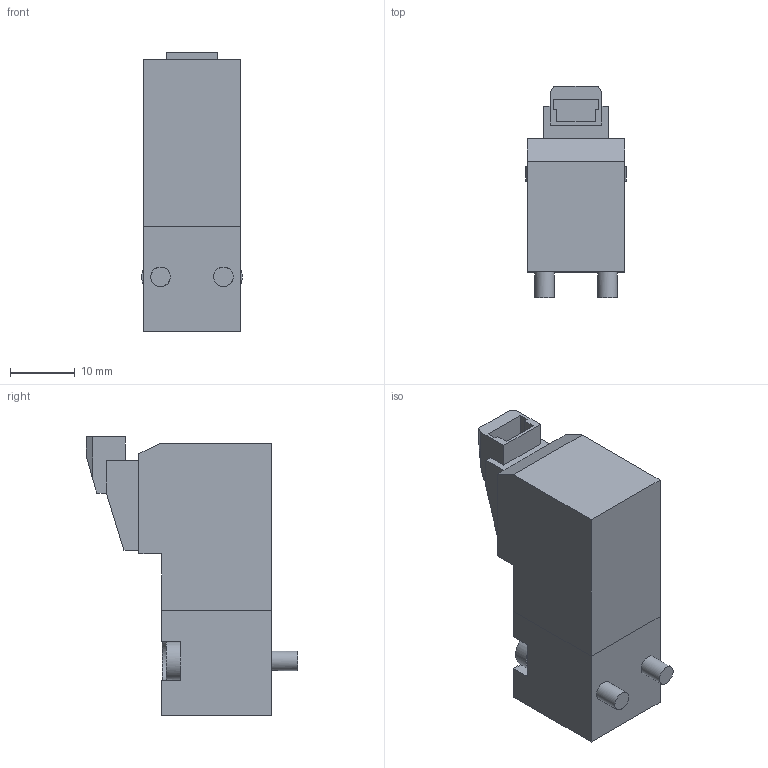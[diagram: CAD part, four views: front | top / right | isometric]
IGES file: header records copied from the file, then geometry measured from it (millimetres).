
Global section: file name: N3##_7#-2; native system: Autodesk Inventor 2014; preprocessor: unknown; author: A. Manieri; organization: Pneumax S.p.A.; date: 20160913.142005; units: millimetre
Bounding box: 15.5 x 32.6 x 42.97 mm (x, y, z)
Volume: 12258.7 mm3; surface area: 4105 mm2
Topology: 1 solids, 1 shells, 90 faces, 236 edges, 154 vertices
Faces by surface type: bspline 90
